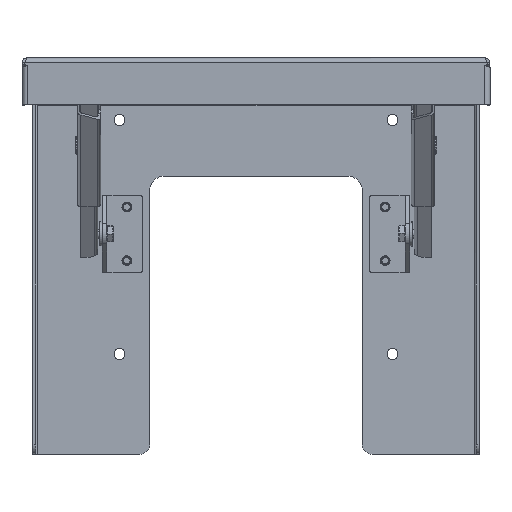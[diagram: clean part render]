
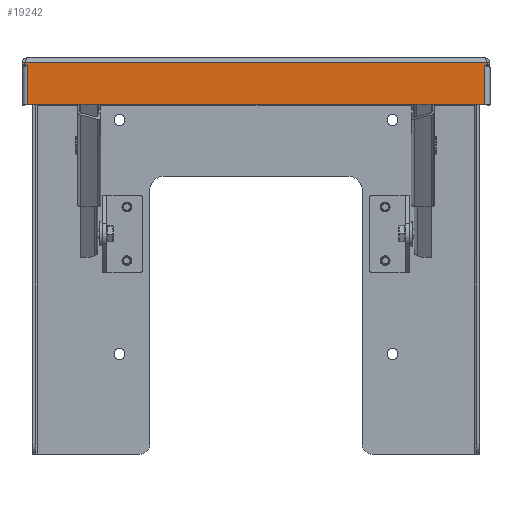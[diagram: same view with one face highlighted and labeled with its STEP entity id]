
A CAD part, top view. The second image highlights one B-rep face of the part: STEP entity #19242.
In plain terms, the highlighted planar face has unit normal (0, 0, 1) as drawn and (0, -1, 0) by its records, which use the part's own axes.
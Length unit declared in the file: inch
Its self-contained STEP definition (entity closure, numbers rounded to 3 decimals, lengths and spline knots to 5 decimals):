
#783 = CARTESIAN_POINT ( 'NONE',  ( -5.91386, -8.94, 0.197 ) ) ;
#1279 = VECTOR ( 'NONE', #18155, 39.37008 ) ;
#1284 = LINE ( 'NONE', #18137, #1285 ) ;
#1285 = VECTOR ( 'NONE', #18142, 39.37008 ) ;
#1286 = LINE ( 'NONE', #18154, #1279 ) ;
#1290 = LINE ( 'NONE', #18156, #1293 ) ;
#1293 = VECTOR ( 'NONE', #18159, 39.37008 ) ;
#1295 = LINE ( 'NONE', #18160, #1296 ) ;
#1296 = VECTOR ( 'NONE', #18161, 39.37008 ) ;
#1307 = LINE ( 'NONE', #18172, #1308 ) ;
#1308 = VECTOR ( 'NONE', #18173, 39.37008 ) ;
#1311 = LINE ( 'NONE', #18180, #1314 ) ;
#1314 = VECTOR ( 'NONE', #18184, 39.37008 ) ;
#1315 = VECTOR ( 'NONE', #18207, 39.37008 ) ;
#1316 = LINE ( 'NONE', #18206, #1315 ) ;
#1317 = LINE ( 'NONE', #18209, #1318 ) ;
#1318 = VECTOR ( 'NONE', #18210, 39.37008 ) ;
#6240 = CARTESIAN_POINT ( 'NONE',  ( 5.86839, -8.94, 0.197 ) ) ;
#6246 = CARTESIAN_POINT ( 'NONE',  ( 5.91386, -8.94, 0.197 ) ) ;
#6251 = CARTESIAN_POINT ( 'NONE',  ( -5.86839, -8.94, 1.192 ) ) ;
#6259 = CARTESIAN_POINT ( 'NONE',  ( -5.86839, -8.94, 0.197 ) ) ;
#6260 = CARTESIAN_POINT ( 'NONE',  ( 5.86839, -8.94, 1.192 ) ) ;
#7040 = VERTEX_POINT ( 'NONE', #6240 ) ;
#7049 = VERTEX_POINT ( 'NONE', #6246 ) ;
#7054 = VERTEX_POINT ( 'NONE', #6251 ) ;
#7062 = VERTEX_POINT ( 'NONE', #6259 ) ;
#7063 = VERTEX_POINT ( 'NONE', #6260 ) ;
#7082 = VERTEX_POINT ( 'NONE', #17879 ) ;
#7189 = VERTEX_POINT ( 'NONE', #17986 ) ;
#7395 = ORIENTED_EDGE ( 'NONE', *, *, #7454, .T. ) ;
#7396 = ORIENTED_EDGE ( 'NONE', *, *, #7460, .T. ) ;
#7397 = ORIENTED_EDGE ( 'NONE', *, *, #7459, .T. ) ;
#7398 = ORIENTED_EDGE ( 'NONE', *, *, #7457, .F. ) ;
#7399 = ORIENTED_EDGE ( 'NONE', *, *, #7471, .F. ) ;
#7454 = EDGE_CURVE ( 'NONE', #7040, #7063, #1284, .T. ) ;
#7457 = EDGE_CURVE ( 'NONE', #13007, #7062, #1286, .T. ) ;
#7459 = EDGE_CURVE ( 'NONE', #7054, #7062, #1290, .T. ) ;
#7460 = EDGE_CURVE ( 'NONE', #7063, #7054, #1295, .T. ) ;
#7466 = EDGE_CURVE ( 'NONE', #7049, #7040, #1307, .T. ) ;
#7471 = EDGE_CURVE ( 'NONE', #7189, #13007, #1311, .T. ) ;
#7475 = EDGE_CURVE ( 'NONE', #7082, #7049, #1316, .T. ) ;
#7476 = EDGE_CURVE ( 'NONE', #7082, #7189, #1317, .T. ) ;
#8578 = FACE_OUTER_BOUND ( 'NONE', #12210, .T. ) ;
#9355 = AXIS2_PLACEMENT_3D ( 'NONE', #15935, #15945, #15946 ) ;
#12210 = EDGE_LOOP ( 'NONE', ( #20599, #20600, #20601, #7395, #7396, #7397, #7398, #7399 ) ) ;
#13007 = VERTEX_POINT ( 'NONE', #783 ) ;
#15935 = CARTESIAN_POINT ( 'NONE',  ( -5.868, -8.94, 1.192 ) ) ;
#15940 = PLANE ( 'NONE',  #9355 ) ;
#15945 = DIRECTION ( 'NONE',  ( 0., 1., 0. ) ) ;
#15946 = DIRECTION ( 'NONE',  ( 0., 0., 1. ) ) ;
#17879 = CARTESIAN_POINT ( 'NONE',  ( 5.91386, -8.94, 0.132 ) ) ;
#17986 = CARTESIAN_POINT ( 'NONE',  ( -5.91386, -8.94, 0.132 ) ) ;
#18137 = CARTESIAN_POINT ( 'NONE',  ( 5.86839, -8.94, 0.197 ) ) ;
#18142 = DIRECTION ( 'NONE',  ( 0., 0., 1. ) ) ;
#18154 = CARTESIAN_POINT ( 'NONE',  ( -5.91386, -8.94, 0.197 ) ) ;
#18155 = DIRECTION ( 'NONE',  ( 1., 0., 0. ) ) ;
#18156 = CARTESIAN_POINT ( 'NONE',  ( -5.86839, -8.94, 1.192 ) ) ;
#18159 = DIRECTION ( 'NONE',  ( 0., 0., -1. ) ) ;
#18160 = CARTESIAN_POINT ( 'NONE',  ( -5.868, -8.94, 1.192 ) ) ;
#18161 = DIRECTION ( 'NONE',  ( -1., 0., 0. ) ) ;
#18172 = CARTESIAN_POINT ( 'NONE',  ( 5.91386, -8.94, 0.197 ) ) ;
#18173 = DIRECTION ( 'NONE',  ( -1., 0., 0. ) ) ;
#18180 = CARTESIAN_POINT ( 'NONE',  ( -5.91386, -8.94, 0.132 ) ) ;
#18184 = DIRECTION ( 'NONE',  ( 0., 0., 1. ) ) ;
#18206 = CARTESIAN_POINT ( 'NONE',  ( 5.91386, -8.94, 0.132 ) ) ;
#18207 = DIRECTION ( 'NONE',  ( 0., 0., 1. ) ) ;
#18209 = CARTESIAN_POINT ( 'NONE',  ( -5.868, -8.94, 0.132 ) ) ;
#18210 = DIRECTION ( 'NONE',  ( -1., 0., 0. ) ) ;
#19242 = ADVANCED_FACE ( 'NONE', ( #8578 ), #15940, .F. ) ;
#20599 = ORIENTED_EDGE ( 'NONE', *, *, #7476, .F. ) ;
#20600 = ORIENTED_EDGE ( 'NONE', *, *, #7475, .T. ) ;
#20601 = ORIENTED_EDGE ( 'NONE', *, *, #7466, .T. ) ;
